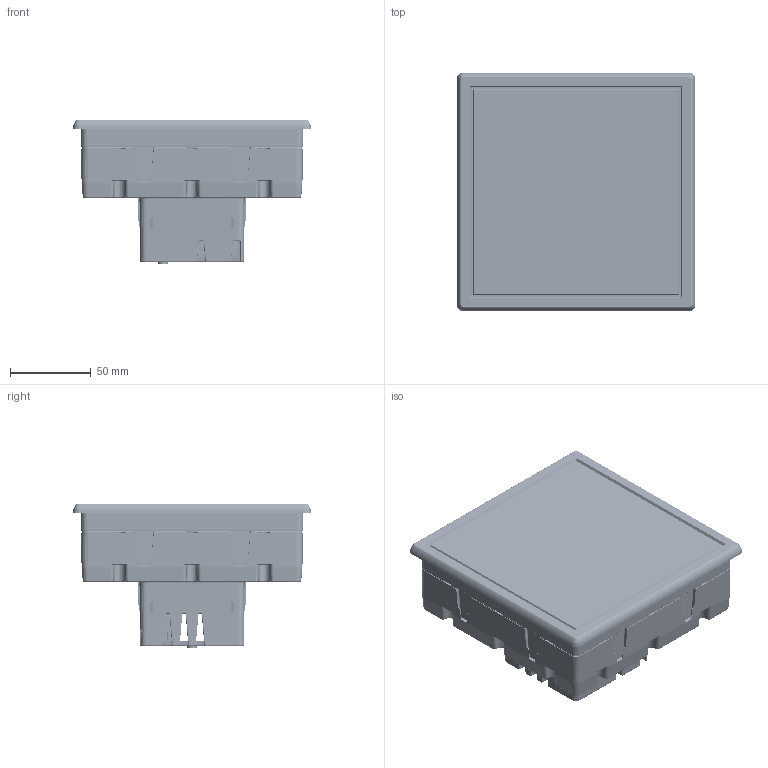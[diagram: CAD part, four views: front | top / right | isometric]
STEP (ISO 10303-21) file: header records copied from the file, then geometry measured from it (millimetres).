
FILE_DESCRIPTION(/* description */ (''),/* implementation_level */ '2;1');
FILE_NAME(/* name */ 'XL144_Rear_mount_3D CAD_20250123.stp',/* time_stamp */ '2025-01-23T13:19:29+01:00',/* author */ ('JDI'),/* organization */ (''),/* preprocessor_version */ 'ST-DEVELOPER v19.2',/* originating_system */ 'Autodesk Inventor 2023',/* authorisation */ '');
FILE_SCHEMA (('AUTOMOTIVE_DESIGN { 1 0 10303 214 3 1 1 }'));
Products named in the file (6): Assembly2; 1100510092; 1100610035; 1149010003-1; 1149010003; 1120330006
Assembly tree (5 placements, depth 3):
  Assembly2
    1100510092
    1100610035
      1149010003-1
      1149010003
    1120330006
Bounding box: 148 x 148 x 89.75 mm (x, y, z)
Volume: 270862 mm3; surface area: 222251.8 mm2
Topology: 4 solids, 4 shells, 5709 faces, 14138 edges, 8382 vertices
Faces by surface type: plane 1741, bspline 1610, cylinder 1452, torus 366, cone 294, sphere 246
Entity records: 254815 total; most frequent: CARTESIAN_POINT 128705, ORIENTED_EDGE 27740, DIRECTION 24543, EDGE_CURVE 13870, AXIS2_PLACEMENT_3D 9105, VERTEX_POINT 8381, LINE 6333, VECTOR 6333
